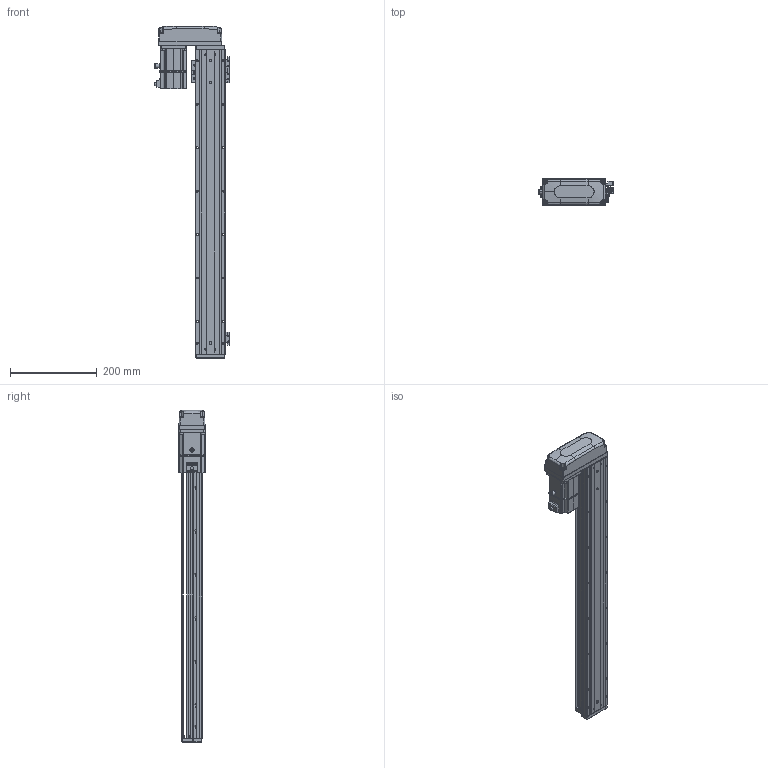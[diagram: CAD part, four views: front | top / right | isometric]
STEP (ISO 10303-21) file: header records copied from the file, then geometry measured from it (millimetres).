
FILE_DESCRIPTION (( 'STEP AP203' ), '1' );
FILE_NAME ('KTHA60-600-BR-M20-C4L.step', '2022-12-16T01:39:54', ( '微软用户' ), ( '微软中国' ), 'SwSTEP 2.0', 'SolidWorks 2020', '' );
FILE_SCHEMA (( 'CONFIG_CONTROL_DESIGN' ));
Length unit declared in the file: millimetre
Products named in the file (17): CTHA60-006-2_CTHA60-006-2; GBT 70.3-M3℅6; GBT 70.1-M4×16; _X2_4E0983F1_X0_200W_1; EE_SX911P_R; GBT77-2000M3-3; KTHA60-600-BR-M20-C4L; CTHA60-017; GBT 70.1-M3℅6; KTHA60-001_700; CTHA60-021; CTHA60-016; KTHA60-004; KTHA60-002; KTHA60-005; BTH80-026; GB¨uT 70.2-M3¡Á5_M3¡Á6
Assembly tree (51 placements, depth 2):
  KTHA60-600-BR-M20-C4L
    KTHA60-001_700
    KTHA60-004
    KTHA60-005
    GB¨uT 70.2-M3¡Á5_M3¡Á6  x6
    GBT 70.3-M3℅6  x4
    EE_SX911P_R  x3
    CTHA60-017  x3
    CTHA60-021  x2
    GBT 70.1-M4×16  x8
    GBT77-2000M3-3  x6
    GBT 70.1-M3℅6  x10
    CTHA60-016  x2
    KTHA60-002
    BTH80-026
    CTHA60-006-2_CTHA60-006-2
    _X2_4E0983F1_X0_200W_1
Bounding box: 173.02 x 62.42 x 764 mm (x, y, z)
Volume: 1627875.9 mm3; surface area: 431067.2 mm2
Topology: 54 solids, 54 shells, 2468 faces, 5885 edges, 3622 vertices
Faces by surface type: plane 1309, cylinder 656, cone 286, bspline 109, torus 92, sphere 16
Entity records: 46178 total; most frequent: CARTESIAN_POINT 10706, ORIENTED_EDGE 6818, DIRECTION 6808, EDGE_CURVE 3409, AXIS2_PLACEMENT_3D 2343, VERTEX_POINT 2131, VECTOR 2122, LINE 2122
